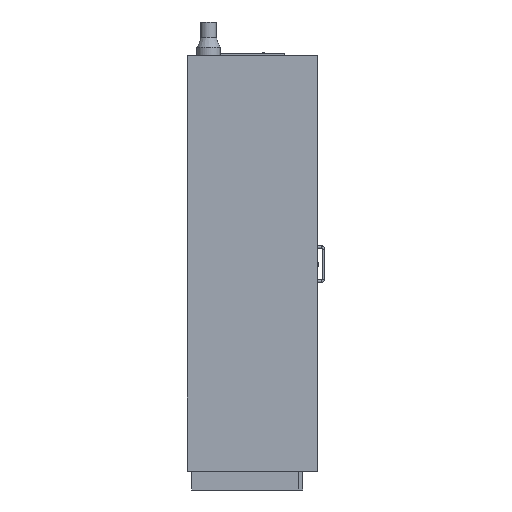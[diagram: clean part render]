
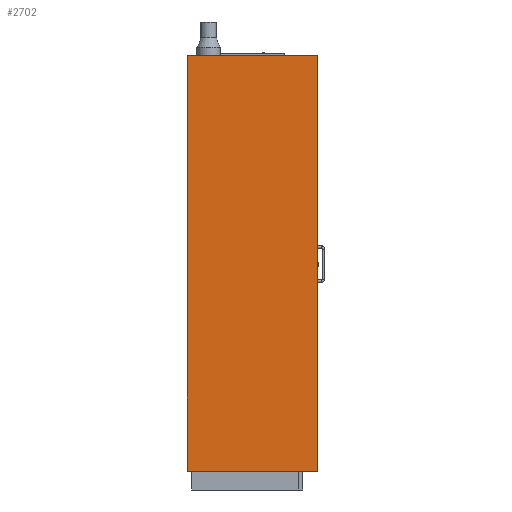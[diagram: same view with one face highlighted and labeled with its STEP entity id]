
A CAD part, left-side view. The second image highlights one B-rep face of the part: STEP entity #2702.
In plain terms, the highlighted planar face has unit normal (-1, 0, 0).
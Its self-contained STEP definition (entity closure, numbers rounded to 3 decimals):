
#62=LINE('',#3583,#262);
#70=LINE('',#3599,#270);
#97=LINE('',#3674,#297);
#98=LINE('',#3676,#298);
#99=LINE('',#3678,#299);
#100=LINE('',#3680,#300);
#101=LINE('',#3681,#301);
#102=LINE('',#3683,#302);
#262=VECTOR('',#3023,1000.);
#270=VECTOR('',#3031,1000.);
#297=VECTOR('',#3084,1000.);
#298=VECTOR('',#3085,1000.);
#299=VECTOR('',#3086,1000.);
#300=VECTOR('',#3087,1000.);
#301=VECTOR('',#3088,1000.);
#302=VECTOR('',#3089,1000.);
#516=ORIENTED_EDGE('',*,*,#1028,.T.);
#517=ORIENTED_EDGE('',*,*,#982,.F.);
#518=ORIENTED_EDGE('',*,*,#1029,.F.);
#519=ORIENTED_EDGE('',*,*,#1030,.F.);
#520=ORIENTED_EDGE('',*,*,#1031,.F.);
#521=ORIENTED_EDGE('',*,*,#990,.F.);
#522=ORIENTED_EDGE('',*,*,#1032,.F.);
#523=ORIENTED_EDGE('',*,*,#1033,.T.);
#982=EDGE_CURVE('',#1239,#1240,#62,.T.);
#990=EDGE_CURVE('',#1247,#1248,#70,.T.);
#1028=EDGE_CURVE('',#1283,#1240,#97,.T.);
#1029=EDGE_CURVE('',#1284,#1239,#98,.T.);
#1030=EDGE_CURVE('',#1285,#1284,#99,.T.);
#1031=EDGE_CURVE('',#1248,#1285,#100,.T.);
#1032=EDGE_CURVE('',#1286,#1247,#101,.T.);
#1033=EDGE_CURVE('',#1286,#1283,#102,.T.);
#1239=VERTEX_POINT('',#3582);
#1240=VERTEX_POINT('',#3584);
#1247=VERTEX_POINT('',#3598);
#1248=VERTEX_POINT('',#3600);
#1283=VERTEX_POINT('',#3675);
#1284=VERTEX_POINT('',#3677);
#1285=VERTEX_POINT('',#3679);
#1286=VERTEX_POINT('',#3682);
#1476=EDGE_LOOP('',(#516,#517,#518,#519,#520,#521,#522,#523));
#1638=FACE_BOUND('',#1476,.T.);
#1788=PLANE('',#2842);
#2702=ADVANCED_FACE('',(#1638),#1788,.F.);
#2842=AXIS2_PLACEMENT_3D('',#3673,#3082,#3083);
#3023=DIRECTION('',(0.,-1.,0.));
#3031=DIRECTION('',(0.,-1.,0.));
#3082=DIRECTION('',(1.,0.,0.));
#3083=DIRECTION('',(0.,0.,-1.));
#3084=DIRECTION('',(0.,0.,1.));
#3085=DIRECTION('',(0.,0.,1.));
#3086=DIRECTION('',(0.,1.,0.));
#3087=DIRECTION('',(0.,0.,-1.));
#3088=DIRECTION('',(0.,0.,1.));
#3089=DIRECTION('',(0.,1.,0.));
#3582=CARTESIAN_POINT('',(0.,612.,1956.));
#3583=CARTESIAN_POINT('',(0.,612.,1956.));
#3584=CARTESIAN_POINT('',(0.,583.,1956.));
#3598=CARTESIAN_POINT('',(0.,564.,1956.));
#3599=CARTESIAN_POINT('',(0.,612.,1956.));
#3600=CARTESIAN_POINT('',(0.,0.,1956.));
#3673=CARTESIAN_POINT('',(0.,0.,0.));
#3674=CARTESIAN_POINT('',(0.,583.,1954.5));
#3675=CARTESIAN_POINT('',(0.,583.,1954.5));
#3676=CARTESIAN_POINT('',(0.,612.,0.));
#3677=CARTESIAN_POINT('',(0.,612.,0.));
#3678=CARTESIAN_POINT('',(0.,0.,0.));
#3679=CARTESIAN_POINT('',(0.,0.,0.));
#3680=CARTESIAN_POINT('',(0.,0.,1956.));
#3681=CARTESIAN_POINT('',(0.,564.,1954.5));
#3682=CARTESIAN_POINT('',(0.,564.,1954.5));
#3683=CARTESIAN_POINT('',(0.,564.,1954.5));
